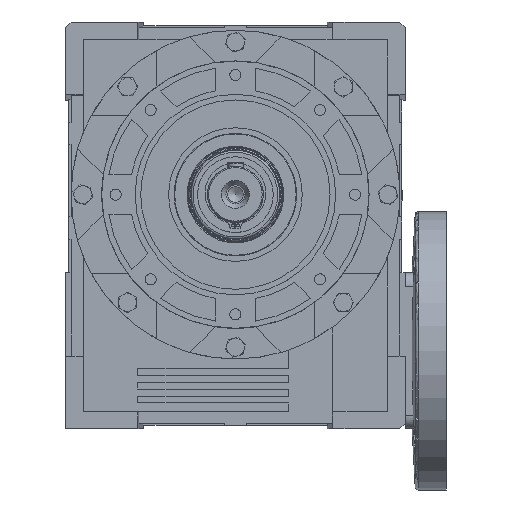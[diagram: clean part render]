
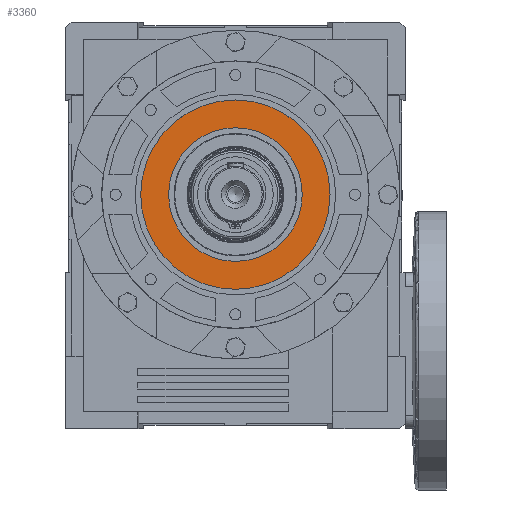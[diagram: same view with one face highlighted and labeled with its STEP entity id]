
A CAD part, top view. The second image highlights one B-rep face of the part: STEP entity #3360.
In plain terms, the highlighted planar face has unit normal (0, 0, 1).
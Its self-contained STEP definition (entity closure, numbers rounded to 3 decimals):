
#1361 = CARTESIAN_POINT ( 'NONE',  ( 0., 0., 107. ) ) ;
#1447 = CARTESIAN_POINT ( 'NONE',  ( 0., 60., 107. ) ) ;
#3228 = EDGE_LOOP ( 'NONE', ( #16800 ) ) ;
#3360 = ADVANCED_FACE ( 'NONE', ( #27336, #27423 ), #23262, .F. ) ;
#4515 = DIRECTION ( 'NONE',  ( 1., 0., 0. ) ) ;
#7085 = EDGE_LOOP ( 'NONE', ( #25060 ) ) ;
#7813 = DIRECTION ( 'NONE',  ( -1., 0., 0. ) ) ;
#8078 = CARTESIAN_POINT ( 'NONE',  ( 60., 0., 107. ) ) ;
#8193 = AXIS2_PLACEMENT_3D ( 'NONE', #1361, #23161, #4515 ) ;
#10057 = EDGE_CURVE ( 'NONE', #37047, #37047, #22945, .T. ) ;
#10119 = EDGE_CURVE ( 'NONE', #29066, #29066, #21742, .T. ) ;
#11099 = CARTESIAN_POINT ( 'NONE',  ( 0., 0., 107. ) ) ;
#14246 = DIRECTION ( 'NONE',  ( 1., 0., 0. ) ) ;
#16800 = ORIENTED_EDGE ( 'NONE', *, *, #10057, .T. ) ;
#20682 = AXIS2_PLACEMENT_3D ( 'NONE', #11099, #32480, #14246 ) ;
#21742 = CIRCLE ( 'NONE', #20682, 60. ) ;
#22945 = CIRCLE ( 'NONE', #8193, 85. ) ;
#23161 = DIRECTION ( 'NONE',  ( 0., 0., 1. ) ) ;
#23262 = PLANE ( 'NONE',  #30876 ) ;
#25060 = ORIENTED_EDGE ( 'NONE', *, *, #10119, .F. ) ;
#26325 = DIRECTION ( 'NONE',  ( 0., 0., -1. ) ) ;
#26589 = CARTESIAN_POINT ( 'NONE',  ( 85., 0., 107. ) ) ;
#27336 = FACE_BOUND ( 'NONE', #7085, .T. ) ;
#27423 = FACE_OUTER_BOUND ( 'NONE', #3228, .T. ) ;
#29066 = VERTEX_POINT ( 'NONE', #8078 ) ;
#30876 = AXIS2_PLACEMENT_3D ( 'NONE', #1447, #26325, #7813 ) ;
#32480 = DIRECTION ( 'NONE',  ( 0., 0., 1. ) ) ;
#37047 = VERTEX_POINT ( 'NONE', #26589 ) ;
